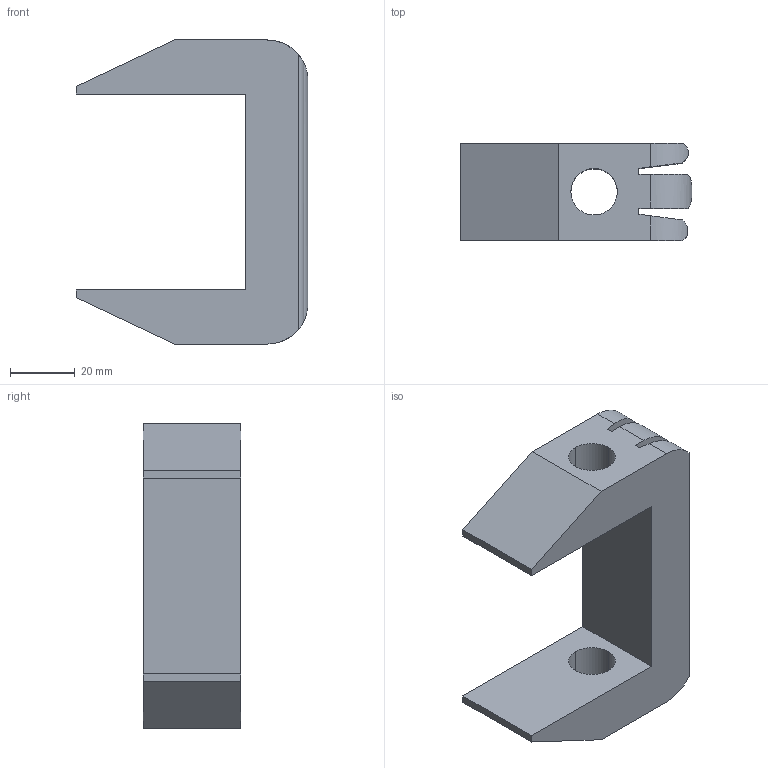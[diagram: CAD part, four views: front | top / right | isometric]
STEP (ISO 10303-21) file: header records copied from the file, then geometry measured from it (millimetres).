
FILE_DESCRIPTION(('TurboCAD Mac Pro'),'Build 980');
FILE_NAME('PLF9050.stp',' ',(''),(''),'ACIS Interop','IMSI','TurboCAD Mac Pro BY IMSI, INCORPORATED');
FILE_SCHEMA(('automotive_design'));
Length unit declared in the file: inch
Products named in the file (1): 1
Bounding box: 71.44 x 29.95 x 93.66 mm (x, y, z)
Volume: 75373.3 mm3; surface area: 23513.1 mm2
Topology: 1 solids, 1 shells, 37 faces, 105 edges, 70 vertices
Faces by surface type: bspline 20, plane 17
Entity records: 1736 total; most frequent: CARTESIAN_POINT 584, ORIENTED_EDGE 210, EDGE_CURVE 105, DIRECTION 100, VERTEX_POINT 70, LINE 64, VECTOR 64, EDGE_LOOP 41
